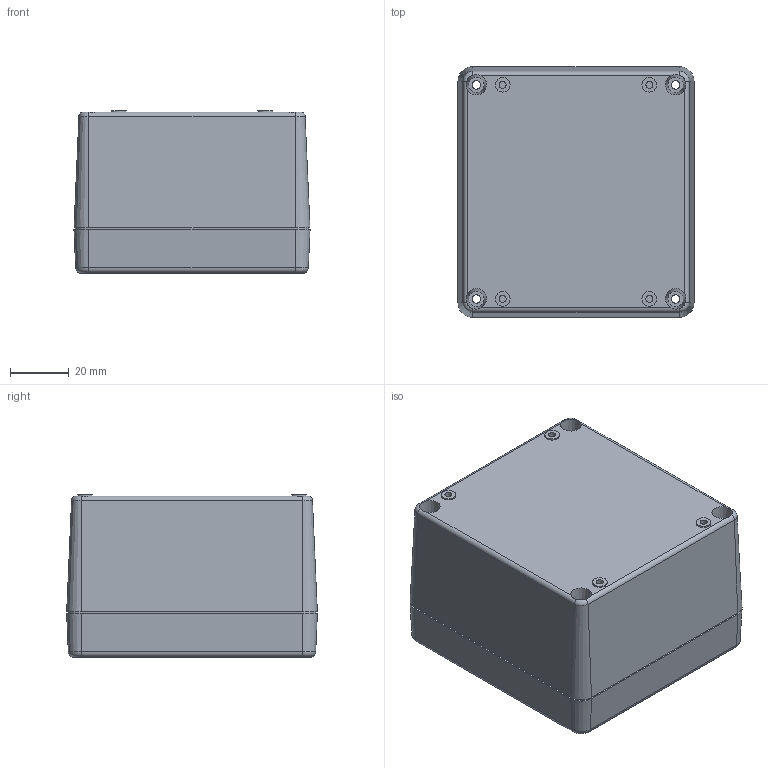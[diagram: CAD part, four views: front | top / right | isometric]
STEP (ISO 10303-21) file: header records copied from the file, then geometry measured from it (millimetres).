
FILE_DESCRIPTION((''),'2;1');
FILE_NAME('E:\Eng\Customer Service\Drawings\Ritec\Step\RP SERIES\RP1065.stp','2009-07-29T13:32:49',('tcook'),(''),'Autodesk Inventor 2010','Autodesk Inventor 2010','');
FILE_SCHEMA(('AUTOMOTIVE_DESIGN { 1 0 10303 214 1 1 1 1 }'));
Length unit declared in the file: millimetre
Products named in the file (4): RP1065; 1065T_0A; 1065B_0A; PLATE
Assembly tree (3 placements, depth 2):
  RP1065
    1065T_0A
    1065B_0A
    PLATE
Bounding box: 80.5 x 85.5 x 55.5 mm (x, y, z)
Volume: 90298.7 mm3; surface area: 75461.9 mm2
Topology: 3 solids, 3 shells, 431 faces, 1035 edges, 651 vertices
Faces by surface type: plane 167, cylinder 116, cone 92, torus 48, bspline 8
Full cylindrical faces by diameter (mm): 2.4 x4, 3.5 x6, 4.5 x6, 5 x4
Entity records: 12837 total; most frequent: CARTESIAN_POINT 2670, DIRECTION 2252, ORIENTED_EDGE 1928, EDGE_CURVE 964, AXIS2_PLACEMENT_3D 902, VERTEX_POINT 636, EDGE_LOOP 556, CIRCLE 464
